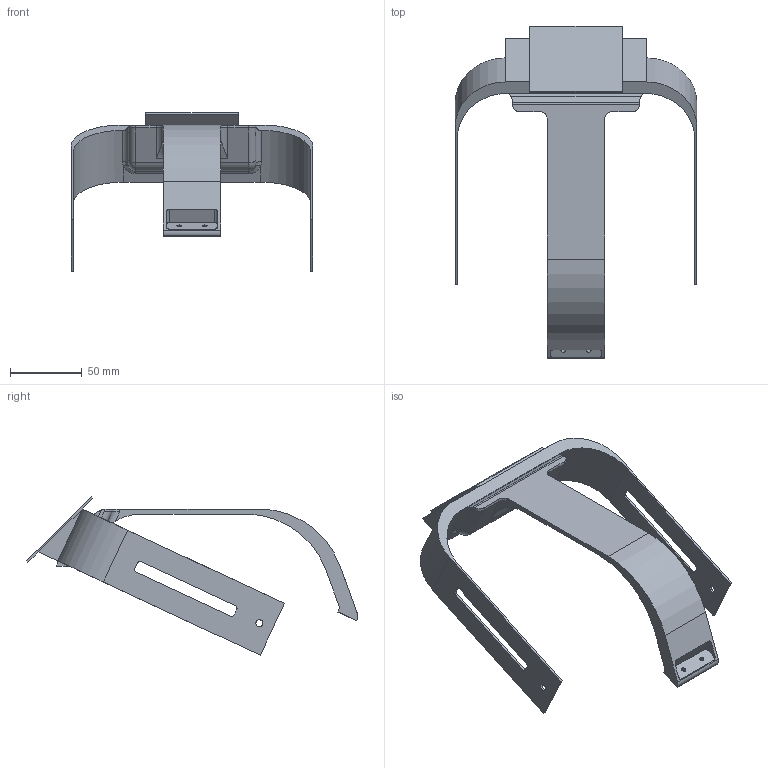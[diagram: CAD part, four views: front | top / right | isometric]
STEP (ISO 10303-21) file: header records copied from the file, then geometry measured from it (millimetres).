
FILE_DESCRIPTION(/* description */ ('STEP AP242 Edition 2','CAx-IF Rec.Pracs.---Representation and Presentation of Product Manufacturing Information (PMI)---4.0---2014-10-13','CAx-IF Rec.Pracs.---3D Tessellated Geometry---0.4---2014-09-14','2;1','CAx-IF Rec.Pracs.---User Defined Attributes---1.5---2016-08-15'),/* implementation_level */ '2;1');
FILE_NAME(/* name */ 'main - headstrap',/* time_stamp */ '2026-11-08T20:03:43Z',/* author */ (''),/* organization */ (''),/* preprocessor_version */ 'ST-DEVELOPER v20',/* originating_system */ 'ONSHAPE BY PTC INC, 1.223',/* authorisation */ ' ');
FILE_SCHEMA (('AP242_MANAGED_MODEL_BASED_3D_ENGINEERING_MIM_LF { 1 0 10303 442 3 1 4 }'));
Length unit declared in the file: metre
Products named in the file (1): headstrap
Bounding box: 169 x 232.07 x 110.81 mm (x, y, z)
Volume: 198739.2 mm3; surface area: 66056 mm2
Topology: 1 solids, 1 shells, 99 faces, 273 edges, 177 vertices
Faces by surface type: plane 49, cylinder 37, bspline 11, torus 2
Full cylindrical faces by diameter (mm): 3 x2, 5 x2
Entity records: 3257 total; most frequent: CARTESIAN_POINT 736, ORIENTED_EDGE 532, DIRECTION 500, EDGE_CURVE 266, VERTEX_POINT 174, AXIS2_PLACEMENT_3D 169, LINE 162, VECTOR 162
